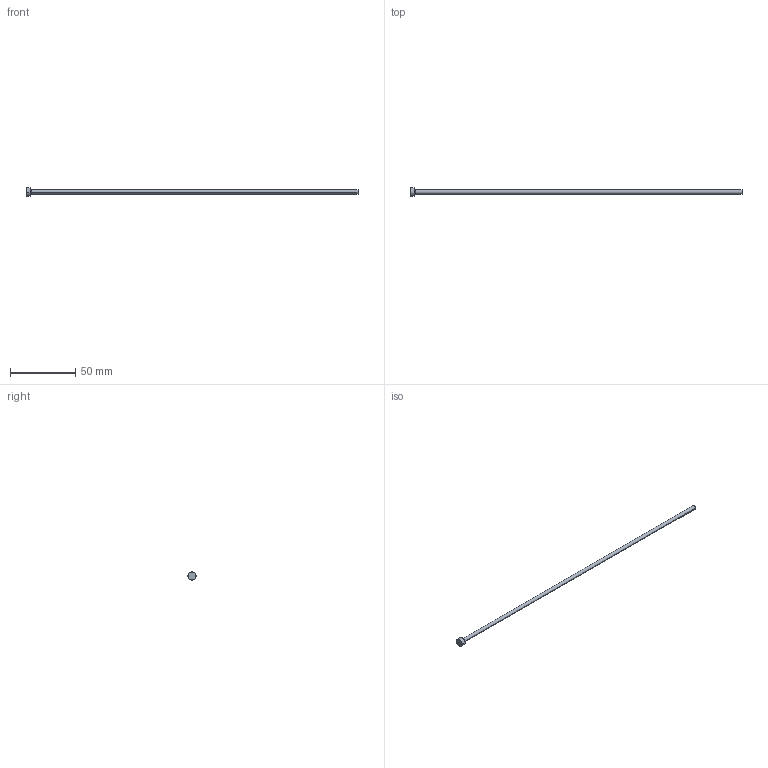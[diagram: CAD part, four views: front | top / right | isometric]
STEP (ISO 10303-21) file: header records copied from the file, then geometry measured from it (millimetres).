
FILE_DESCRIPTION (( 'STEP AP214' ), '1' );
FILE_NAME ('P9-10.STEP', '2020-03-11T17:31:08', ( '' ), ( '' ), 'SwSTEP 2.0', 'SolidWorks 2018', '' );
FILE_SCHEMA (( 'AUTOMOTIVE_DESIGN' ));
Length unit declared in the file: inch
Products named in the file (1): P9-10
Bounding box: 254 x 6.35 x 6.35 mm (x, y, z)
Volume: 2078.1 mm3; surface area: 2617.1 mm2
Topology: 1 solids, 1 shells, 13 faces, 24 edges, 14 vertices
Faces by surface type: cone 4, cylinder 4, plane 3, torus 2
Entity records: 366 total; most frequent: DIRECTION 68, CARTESIAN_POINT 52, ORIENTED_EDGE 48, AXIS2_PLACEMENT_3D 30, EDGE_CURVE 24, CIRCLE 16, VERTEX_POINT 14, EDGE_LOOP 14
